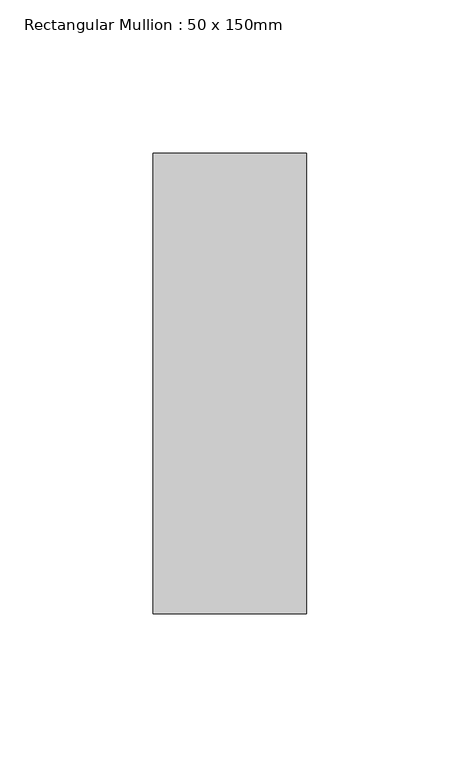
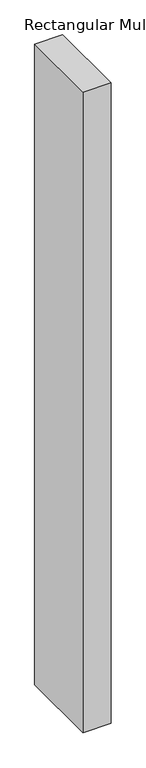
"""IFC4 building model written with IfcOpenShell, lengths in millimetres: member geometry, Rectangular Mullion : 50 x 150mm."""

from ifc_helpers import new_model, si_unit, frame, origin, place, context, project, spatial, polyline, outline, extrude, source, transform, mapped, element, save


def rectangular_mullion_50_x_150mm_6b703a19(model_context):
    return source(origin(), model_context, "Body", "SweptSolid", [
        extrude(outline(polyline([(0.0, 75.0), (0.0, -75.0), (-50.0, -75.0), (-50.0, 75.0), (0.0, 75.0)])), frame((0.0, 0.0, -1214.1327917), z_axis=(0.0, 0.0, 1.0), x_axis=(1.0, 0.0, 0.0)), (0.0, 0.0, 1.0), 1214.1327917),
    ])


if __name__ == "__main__":
    model = new_model("IFC4")
    model_context = context("Model", 3, world=origin())
    ifc_project = project(units=[si_unit("LENGTHUNIT", "METRE", prefix="MILLI")], contexts=[model_context])
    site = spatial("IfcSite", under=ifc_project)
    building = spatial("IfcBuilding", under=site)
    placement = place(None, origin())
    rectangular_mullion_50_x_150mm_shape = rectangular_mullion_50_x_150mm_6b703a19(model_context)
    element("IfcMember", 1, ObjectType="Rectangular Mullion : 50 x 150mm", at=placement, inside=building, context=model_context, shape_type="MappedRepresentation", body=[
        mapped(rectangular_mullion_50_x_150mm_shape, transform((0.0, 0.0, 0.0), x_axis=(1.0, 0.0, 0.0), y_axis=(0.0, 1.0, 0.0), z_axis=(0.0, 0.0, 1.0))),
    ])
    save(model, "model.ifc")
